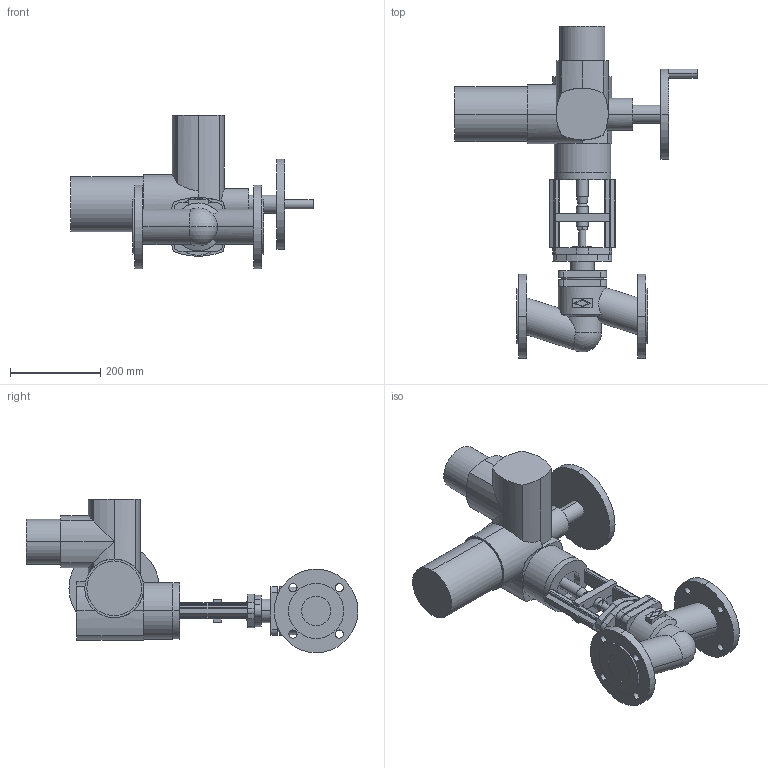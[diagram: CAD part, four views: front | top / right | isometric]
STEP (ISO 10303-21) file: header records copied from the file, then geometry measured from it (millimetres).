
FILE_DESCRIPTION(('OneSpaceDesigner STEP Export'),'2;1');
FILE_NAME('c000003090.stp','2007-01-09T10:46:52',(''),(''),'OneSpace Designer STEP processor for AP214 (Solid Model)','OneSpace Designer 14.00B 27-May-2006 (C) CoCreate Software GmbH','');
FILE_SCHEMA(('AUTOMOTIVE_DESIGN { 1 0 10303 214 1 1 1 1 }'));
Length unit declared in the file: millimetre
Products named in the file (3): 1; 2; 3
Bounding box: 536 x 734.5 x 339.5 mm (x, y, z)
Volume: 13926063.4 mm3; surface area: 795263.8 mm2
Topology: 3 solids, 3 shells, 269 faces, 681 edges, 433 vertices
Faces by surface type: cylinder 136, plane 125, cone 6, sphere 2
Entity records: 7972 total; most frequent: CARTESIAN_POINT 1856, ORIENTED_EDGE 1358, DIRECTION 1139, EDGE_CURVE 679, VERTEX_POINT 433, AXIS2_PLACEMENT_3D 385, VECTOR 369, LINE 369
